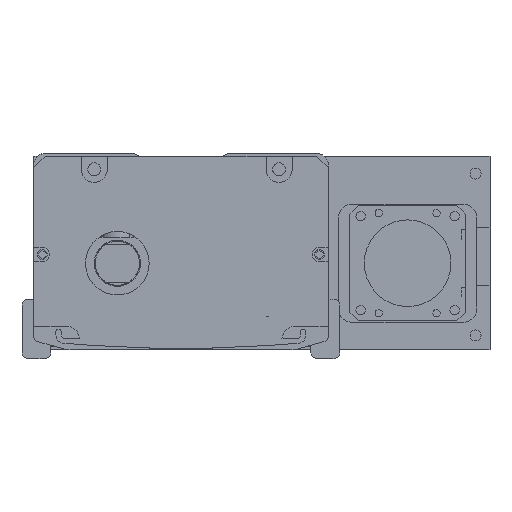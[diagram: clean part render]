
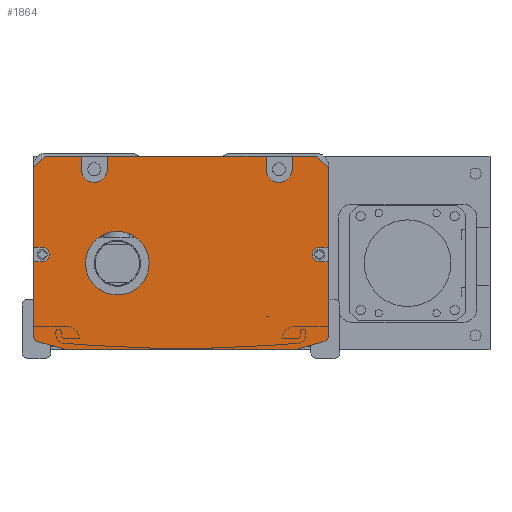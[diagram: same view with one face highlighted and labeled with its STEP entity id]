
A CAD part, front view. The second image highlights one B-rep face of the part: STEP entity #1864.
In plain terms, the highlighted planar face has unit normal (0, -1, 0).
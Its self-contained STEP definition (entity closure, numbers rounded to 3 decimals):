
#1864=ADVANCED_FACE('',(#4472,#4473),#2433,.F.);
#2433=PLANE('',#14301);
#2978=LINE('',#27368,#3779);
#2982=LINE('',#27377,#3783);
#2990=LINE('',#27404,#3791);
#2994=LINE('',#27413,#3795);
#3001=LINE('',#27429,#3802);
#3003=LINE('',#27434,#3804);
#3018=LINE('',#27477,#3819);
#3020=LINE('',#27485,#3821);
#3023=LINE('',#27489,#3824);
#3044=LINE('',#27557,#3845);
#3048=LINE('',#27566,#3849);
#3052=LINE('',#27575,#3853);
#3056=LINE('',#27584,#3857);
#3060=LINE('',#27600,#3861);
#3064=LINE('',#27606,#3865);
#3065=LINE('',#27607,#3866);
#3067=LINE('',#27623,#3868);
#3068=LINE('',#27624,#3869);
#3069=LINE('',#27625,#3870);
#3070=LINE('',#27626,#3871);
#3779=VECTOR('',#16883,1.);
#3783=VECTOR('',#16889,1.);
#3791=VECTOR('',#16911,1.);
#3795=VECTOR('',#16917,1.);
#3802=VECTOR('',#16926,1.);
#3804=VECTOR('',#16930,1.);
#3819=VECTOR('',#16969,1.);
#3821=VECTOR('',#16979,1.);
#3824=VECTOR('',#16984,1.);
#3845=VECTOR('',#17059,1.);
#3849=VECTOR('',#17065,1.);
#3853=VECTOR('',#17071,1.);
#3857=VECTOR('',#17077,1.);
#3861=VECTOR('',#17095,1.);
#3865=VECTOR('',#17099,1.);
#3866=VECTOR('',#17100,1.);
#3868=VECTOR('',#17124,1.);
#3869=VECTOR('',#17125,1.);
#3870=VECTOR('',#17126,1.);
#3871=VECTOR('',#17127,1.);
#4472=FACE_BOUND('',#5414,.T.);
#4473=FACE_BOUND('',#5415,.T.);
#5414=EDGE_LOOP('',(#7947,#7948,#7949,#7950,#7951,#7952,#7953,#7954,#7955,
#7956,#7957,#7958,#7959,#7960,#7961,#7962,#7963,#7964,#7965,#7966,#7967,
#7968,#7969,#7970,#7971,#7972,#7973,#7974));
#5415=EDGE_LOOP('',(#7975));
#7947=ORIENTED_EDGE('',*,*,#12052,.T.);
#7948=ORIENTED_EDGE('',*,*,#11929,.T.);
#7949=ORIENTED_EDGE('',*,*,#12039,.T.);
#7950=ORIENTED_EDGE('',*,*,#11956,.F.);
#7951=ORIENTED_EDGE('',*,*,#11993,.T.);
#7952=ORIENTED_EDGE('',*,*,#11958,.F.);
#7953=ORIENTED_EDGE('',*,*,#12044,.T.);
#7954=ORIENTED_EDGE('',*,*,#11945,.F.);
#7955=ORIENTED_EDGE('',*,*,#11990,.T.);
#7956=ORIENTED_EDGE('',*,*,#11949,.F.);
#7957=ORIENTED_EDGE('',*,*,#12043,.T.);
#7958=ORIENTED_EDGE('',*,*,#11933,.T.);
#7959=ORIENTED_EDGE('',*,*,#12053,.T.);
#7960=ORIENTED_EDGE('',*,*,#12023,.T.);
#7961=ORIENTED_EDGE('',*,*,#12051,.T.);
#7962=ORIENTED_EDGE('',*,*,#12019,.T.);
#7963=ORIENTED_EDGE('',*,*,#12054,.T.);
#7964=ORIENTED_EDGE('',*,*,#11976,.T.);
#7965=ORIENTED_EDGE('',*,*,#11979,.T.);
#7966=ORIENTED_EDGE('',*,*,#11982,.T.);
#7967=ORIENTED_EDGE('',*,*,#11983,.T.);
#7968=ORIENTED_EDGE('',*,*,#11939,.T.);
#7969=ORIENTED_EDGE('',*,*,#11986,.T.);
#7970=ORIENTED_EDGE('',*,*,#11941,.T.);
#7971=ORIENTED_EDGE('',*,*,#12055,.T.);
#7972=ORIENTED_EDGE('',*,*,#12031,.T.);
#7973=ORIENTED_EDGE('',*,*,#12050,.T.);
#7974=ORIENTED_EDGE('',*,*,#12027,.T.);
#7975=ORIENTED_EDGE('',*,*,#11995,.T.);
#10349=VERTEX_POINT('',#27369);
#10350=VERTEX_POINT('',#27370);
#10353=VERTEX_POINT('',#27378);
#10354=VERTEX_POINT('',#27379);
#10359=VERTEX_POINT('',#27390);
#10360=VERTEX_POINT('',#27392);
#10361=VERTEX_POINT('',#27396);
#10362=VERTEX_POINT('',#27397);
#10365=VERTEX_POINT('',#27405);
#10366=VERTEX_POINT('',#27406);
#10369=VERTEX_POINT('',#27414);
#10370=VERTEX_POINT('',#27415);
#10374=VERTEX_POINT('',#27424);
#10376=VERTEX_POINT('',#27428);
#10377=VERTEX_POINT('',#27432);
#10379=VERTEX_POINT('',#27435);
#10389=VERTEX_POINT('',#27465);
#10392=VERTEX_POINT('',#27470);
#10394=VERTEX_POINT('',#27476);
#10396=VERTEX_POINT('',#27482);
#10399=VERTEX_POINT('',#27508);
#10415=VERTEX_POINT('',#27555);
#10417=VERTEX_POINT('',#27558);
#10420=VERTEX_POINT('',#27565);
#10421=VERTEX_POINT('',#27567);
#10423=VERTEX_POINT('',#27573);
#10425=VERTEX_POINT('',#27576);
#10428=VERTEX_POINT('',#27583);
#10429=VERTEX_POINT('',#27585);
#11929=EDGE_CURVE('',#10349,#10350,#2978,.T.);
#11933=EDGE_CURVE('',#10353,#10354,#2982,.T.);
#11939=EDGE_CURVE('',#10360,#10359,#13140,.T.);
#11941=EDGE_CURVE('',#10361,#10362,#13141,.T.);
#11945=EDGE_CURVE('',#10365,#10366,#2990,.T.);
#11949=EDGE_CURVE('',#10369,#10370,#2994,.T.);
#11956=EDGE_CURVE('',#10376,#10374,#3001,.T.);
#11958=EDGE_CURVE('',#10377,#10379,#3003,.T.);
#11976=EDGE_CURVE('',#10389,#10392,#13148,.T.);
#11979=EDGE_CURVE('',#10392,#10394,#3018,.T.);
#11982=EDGE_CURVE('',#10394,#10396,#13150,.T.);
#11983=EDGE_CURVE('',#10396,#10360,#3020,.T.);
#11986=EDGE_CURVE('',#10359,#10361,#3023,.T.);
#11990=EDGE_CURVE('',#10365,#10370,#13153,.T.);
#11993=EDGE_CURVE('',#10376,#10379,#13156,.T.);
#11995=EDGE_CURVE('',#10399,#10399,#13157,.T.);
#12019=EDGE_CURVE('',#10417,#10415,#3044,.T.);
#12023=EDGE_CURVE('',#10421,#10420,#3048,.T.);
#12027=EDGE_CURVE('',#10425,#10423,#3052,.T.);
#12031=EDGE_CURVE('',#10429,#10428,#3056,.T.);
#12039=EDGE_CURVE('',#10350,#10374,#3060,.T.);
#12043=EDGE_CURVE('',#10369,#10353,#3064,.T.);
#12044=EDGE_CURVE('',#10377,#10366,#3065,.T.);
#12050=EDGE_CURVE('',#10428,#10425,#13171,.T.);
#12051=EDGE_CURVE('',#10420,#10417,#13172,.T.);
#12052=EDGE_CURVE('',#10423,#10349,#3067,.T.);
#12053=EDGE_CURVE('',#10354,#10421,#3068,.T.);
#12054=EDGE_CURVE('',#10415,#10389,#3069,.T.);
#12055=EDGE_CURVE('',#10362,#10429,#3070,.T.);
#13140=CIRCLE('',#14228,10.);
#13141=CIRCLE('',#14230,2.);
#13148=CIRCLE('',#14246,2.);
#13150=CIRCLE('',#14250,10.);
#13153=CIRCLE('',#14258,4.5);
#13156=CIRCLE('',#14263,4.5);
#13157=CIRCLE('',#14266,11.);
#13171=CIRCLE('',#14297,2.5);
#13172=CIRCLE('',#14299,2.5);
#14228=AXIS2_PLACEMENT_3D('',#27391,#16898,#16899);
#14230=AXIS2_PLACEMENT_3D('',#27395,#16903,#16904);
#14246=AXIS2_PLACEMENT_3D('',#27471,#16963,#16964);
#14250=AXIS2_PLACEMENT_3D('',#27483,#16975,#16976);
#14258=AXIS2_PLACEMENT_3D('',#27497,#16996,#16997);
#14263=AXIS2_PLACEMENT_3D('',#27503,#17006,#17007);
#14266=AXIS2_PLACEMENT_3D('',#27507,#17013,#17014);
#14297=AXIS2_PLACEMENT_3D('',#27619,#17116,#17117);
#14299=AXIS2_PLACEMENT_3D('',#27621,#17120,#17121);
#14301=AXIS2_PLACEMENT_3D('',#27627,#17128,#17129);
#16883=DIRECTION('',(-0.707,0.,0.707));
#16889=DIRECTION('',(-0.707,0.,-0.707));
#16898=DIRECTION('',(0.,-1.,0.));
#16899=DIRECTION('',(0.,0.,-1.));
#16903=DIRECTION('',(0.,-1.,0.));
#16904=DIRECTION('',(0.,0.,-1.));
#16911=DIRECTION('',(0.,0.,1.));
#16917=DIRECTION('',(0.,0.,-1.));
#16926=DIRECTION('',(0.,0.,1.));
#16930=DIRECTION('',(0.,0.,-1.));
#16963=DIRECTION('',(0.,-1.,0.));
#16964=DIRECTION('',(0.,0.,1.));
#16969=DIRECTION('',(0.963,0.,-0.269));
#16975=DIRECTION('',(0.,-1.,0.));
#16976=DIRECTION('',(0.,0.,1.));
#16979=DIRECTION('',(1.,0.,0.));
#16984=DIRECTION('',(0.963,0.,0.269));
#16996=DIRECTION('',(0.,1.,0.));
#16997=DIRECTION('',(0.,0.,1.));
#17006=DIRECTION('',(0.,1.,0.));
#17007=DIRECTION('',(0.,0.,1.));
#17013=DIRECTION('',(0.,1.,0.));
#17014=DIRECTION('',(0.,0.,1.));
#17059=DIRECTION('',(-1.,0.,0.));
#17065=DIRECTION('',(1.,0.,0.));
#17071=DIRECTION('',(1.,0.,0.));
#17077=DIRECTION('',(-1.,0.,0.));
#17095=DIRECTION('',(-1.,0.,0.));
#17099=DIRECTION('',(-1.,0.,0.));
#17100=DIRECTION('',(-1.,0.,0.));
#17116=DIRECTION('',(0.,1.,0.));
#17117=DIRECTION('',(0.,0.,1.));
#17120=DIRECTION('',(0.,1.,0.));
#17121=DIRECTION('',(0.,0.,1.));
#17124=DIRECTION('',(0.,0.,1.));
#17125=DIRECTION('',(0.,0.,-1.));
#17126=DIRECTION('',(0.,0.,-1.));
#17127=DIRECTION('',(0.,0.,1.));
#17128=DIRECTION('',(0.,1.,0.));
#17129=DIRECTION('',(-1.,0.,0.));
#27368=CARTESIAN_POINT('',(43.808,-817.5,-1.));
#27369=CARTESIAN_POINT('',(47.808,-817.5,-5.));
#27370=CARTESIAN_POINT('',(43.808,-817.5,-1.));
#27377=CARTESIAN_POINT('',(-54.192,-817.5,-5.));
#27378=CARTESIAN_POINT('',(-50.192,-817.5,-1.));
#27379=CARTESIAN_POINT('',(-54.192,-817.5,-5.));
#27390=CARTESIAN_POINT('',(37.424,-817.5,-67.631));
#27391=CARTESIAN_POINT('',(34.733,-817.5,-58.));
#27392=CARTESIAN_POINT('',(34.733,-817.5,-68.));
#27395=CARTESIAN_POINT('',(45.808,-817.5,-63.212));
#27396=CARTESIAN_POINT('',(46.346,-817.5,-65.138));
#27397=CARTESIAN_POINT('',(47.808,-817.5,-63.212));
#27404=CARTESIAN_POINT('',(-28.692,-817.5,-3.5));
#27405=CARTESIAN_POINT('',(-28.692,-817.5,-5.5));
#27406=CARTESIAN_POINT('',(-28.692,-817.5,-1.));
#27413=CARTESIAN_POINT('',(-37.692,-817.5,-1.));
#27414=CARTESIAN_POINT('',(-37.692,-817.5,-1.));
#27415=CARTESIAN_POINT('',(-37.692,-817.5,-5.5));
#27424=CARTESIAN_POINT('',(35.308,-817.5,-1.));
#27428=CARTESIAN_POINT('',(35.308,-817.5,-5.5));
#27429=CARTESIAN_POINT('',(35.308,-817.5,-1.));
#27432=CARTESIAN_POINT('',(26.308,-817.5,-1.));
#27434=CARTESIAN_POINT('',(26.308,-817.5,-1.));
#27435=CARTESIAN_POINT('',(26.308,-817.5,-5.5));
#27465=CARTESIAN_POINT('',(-54.192,-817.5,-63.212));
#27470=CARTESIAN_POINT('',(-52.731,-817.5,-65.138));
#27471=CARTESIAN_POINT('',(-52.192,-817.5,-63.212));
#27476=CARTESIAN_POINT('',(-43.809,-817.5,-67.631));
#27477=CARTESIAN_POINT('',(-55.807,-817.5,-64.279));
#27482=CARTESIAN_POINT('',(-41.118,-817.5,-68.));
#27483=CARTESIAN_POINT('',(-41.118,-817.5,-58.));
#27485=CARTESIAN_POINT('',(-54.692,-817.5,-68.));
#27489=CARTESIAN_POINT('',(49.422,-817.5,-64.279));
#27497=CARTESIAN_POINT('',(-33.192,-817.5,-5.5));
#27503=CARTESIAN_POINT('',(30.808,-817.5,-5.5));
#27507=CARTESIAN_POINT('',(-25.192,-817.5,-38.));
#27508=CARTESIAN_POINT('',(-25.192,-817.5,-27.));
#27555=CARTESIAN_POINT('',(-54.192,-817.5,-37.5));
#27557=CARTESIAN_POINT('',(-3.192,-817.5,-37.5));
#27558=CARTESIAN_POINT('',(-51.192,-817.5,-37.5));
#27565=CARTESIAN_POINT('',(-51.192,-817.5,-32.5));
#27566=CARTESIAN_POINT('',(-3.192,-817.5,-32.5));
#27567=CARTESIAN_POINT('',(-54.192,-817.5,-32.5));
#27573=CARTESIAN_POINT('',(47.808,-817.5,-32.5));
#27575=CARTESIAN_POINT('',(-3.192,-817.5,-32.5));
#27576=CARTESIAN_POINT('',(44.808,-817.5,-32.5));
#27583=CARTESIAN_POINT('',(44.808,-817.5,-37.5));
#27584=CARTESIAN_POINT('',(-3.192,-817.5,-37.5));
#27585=CARTESIAN_POINT('',(47.808,-817.5,-37.5));
#27600=CARTESIAN_POINT('',(-3.192,-817.5,-1.));
#27606=CARTESIAN_POINT('',(-54.192,-817.5,-1.));
#27607=CARTESIAN_POINT('',(-54.192,-817.5,-1.));
#27619=CARTESIAN_POINT('',(44.808,-817.5,-35.));
#27621=CARTESIAN_POINT('',(-51.192,-817.5,-35.));
#27623=CARTESIAN_POINT('',(47.808,-817.5,-1.));
#27624=CARTESIAN_POINT('',(-54.192,-817.5,-62.));
#27625=CARTESIAN_POINT('',(-54.192,-817.5,-62.));
#27626=CARTESIAN_POINT('',(47.808,-817.5,-1.));
#27627=CARTESIAN_POINT('',(-3.192,-817.5,-1.));
